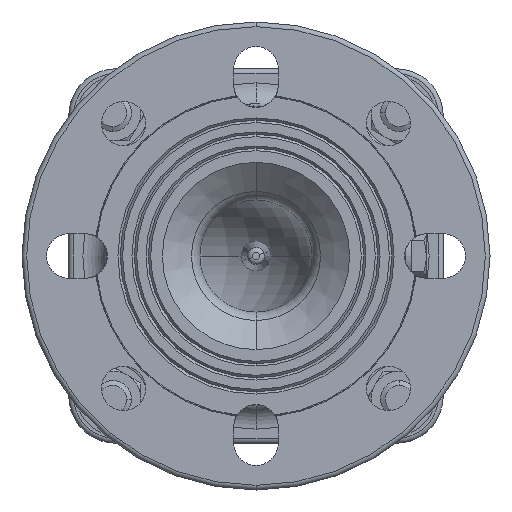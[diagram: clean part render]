
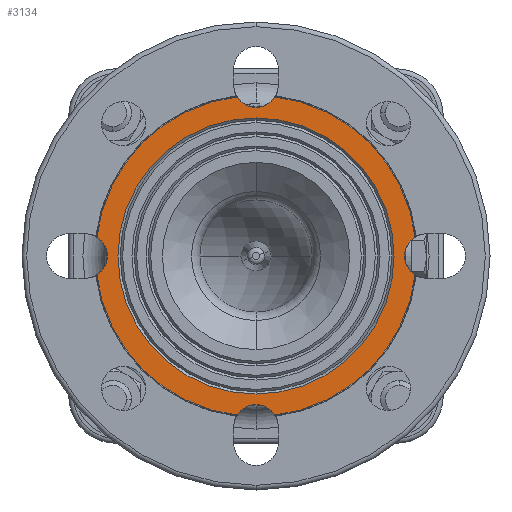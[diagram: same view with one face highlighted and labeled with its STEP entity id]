
A CAD part, front view. The second image highlights one B-rep face of the part: STEP entity #3134.
In plain terms, the highlighted planar face has unit normal (0, -1, 0).
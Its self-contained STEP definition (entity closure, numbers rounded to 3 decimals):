
#19 = AXIS2_PLACEMENT_3D ( 'NONE', #9965, #1234, #11415 ) ;
#114 = ORIENTED_EDGE ( 'NONE', *, *, #14048, .T. ) ;
#166 = DIRECTION ( 'NONE',  ( 0., 0., -1. ) ) ;
#308 = DIRECTION ( 'NONE',  ( 0., 1., 0. ) ) ;
#379 = DIRECTION ( 'NONE',  ( 0., 0., -1. ) ) ;
#497 = VERTEX_POINT ( 'NONE', #13436 ) ;
#502 = AXIS2_PLACEMENT_3D ( 'NONE', #7949, #18143, #9409 ) ;
#691 = CARTESIAN_POINT ( 'NONE',  ( 68.013, 2., -8.085 ) ) ;
#815 = ORIENTED_EDGE ( 'NONE', *, *, #11864, .T. ) ;
#1059 = ORIENTED_EDGE ( 'NONE', *, *, #7221, .F. ) ;
#1081 = DIRECTION ( 'NONE',  ( 0., 0., -1. ) ) ;
#1126 = CARTESIAN_POINT ( 'NONE',  ( 0., 2., 0. ) ) ;
#1234 = DIRECTION ( 'NONE',  ( 0., -1., 0. ) ) ;
#1429 = EDGE_CURVE ( 'NONE', #11476, #497, #1866, .T. ) ;
#1456 = VERTEX_POINT ( 'NONE', #691 ) ;
#1694 = CARTESIAN_POINT ( 'NONE',  ( 8.085, 2., 68.013 ) ) ;
#1749 = EDGE_CURVE ( 'NONE', #18101, #16972, #5547, .T. ) ;
#1768 = PLANE ( 'NONE',  #12232 ) ;
#1781 = CIRCLE ( 'NONE', #10911, 9.5 ) ;
#1866 = CIRCLE ( 'NONE', #502, 68.491 ) ;
#1982 = CIRCLE ( 'NONE', #5563, 59. ) ;
#2053 = CIRCLE ( 'NONE', #7051, 68.491 ) ;
#2177 = AXIS2_PLACEMENT_3D ( 'NONE', #17603, #8909, #166 ) ;
#2319 = FACE_BOUND ( 'NONE', #2457, .T. ) ;
#2448 = CARTESIAN_POINT ( 'NONE',  ( 0., 2., -63.5 ) ) ;
#2457 = EDGE_LOOP ( 'NONE', ( #1059, #17383 ) ) ;
#2557 = DIRECTION ( 'NONE',  ( 0., 0., -1. ) ) ;
#3134 = ADVANCED_FACE ( 'NONE', ( #9153, #2319 ), #1768, .T. ) ;
#3330 = CIRCLE ( 'NONE', #12339, 9.5 ) ;
#3739 = CARTESIAN_POINT ( 'NONE',  ( 68.013, 2., 8.085 ) ) ;
#3768 = ORIENTED_EDGE ( 'NONE', *, *, #6147, .T. ) ;
#4016 = CIRCLE ( 'NONE', #10271, 59. ) ;
#4022 = VERTEX_POINT ( 'NONE', #2448 ) ;
#4078 = EDGE_CURVE ( 'NONE', #1456, #18101, #7771, .T. ) ;
#4538 = VERTEX_POINT ( 'NONE', #16467 ) ;
#4886 = VERTEX_POINT ( 'NONE', #14547 ) ;
#5232 = AXIS2_PLACEMENT_3D ( 'NONE', #15603, #6917, #17094 ) ;
#5418 = CARTESIAN_POINT ( 'NONE',  ( -73., 2., 0. ) ) ;
#5547 = CIRCLE ( 'NONE', #19, 68.491 ) ;
#5563 = AXIS2_PLACEMENT_3D ( 'NONE', #5810, #15966, #7265 ) ;
#5762 = DIRECTION ( 'NONE',  ( 0., 1., 0. ) ) ;
#5810 = CARTESIAN_POINT ( 'NONE',  ( 0., 2., 0. ) ) ;
#6147 = EDGE_CURVE ( 'NONE', #4538, #11476, #1781, .T. ) ;
#6258 = CIRCLE ( 'NONE', #12153, 9.5 ) ;
#6876 = DIRECTION ( 'NONE',  ( 0., 0., -1. ) ) ;
#6917 = DIRECTION ( 'NONE',  ( 0., 1., 0. ) ) ;
#7051 = AXIS2_PLACEMENT_3D ( 'NONE', #18552, #9798, #1081 ) ;
#7088 = CIRCLE ( 'NONE', #7516, 68.491 ) ;
#7221 = EDGE_CURVE ( 'NONE', #4886, #16591, #1982, .T. ) ;
#7265 = DIRECTION ( 'NONE',  ( 0., 0., -1. ) ) ;
#7497 = CARTESIAN_POINT ( 'NONE',  ( 0., 2., 0. ) ) ;
#7516 = AXIS2_PLACEMENT_3D ( 'NONE', #1126, #11286, #2557 ) ;
#7771 = CIRCLE ( 'NONE', #5232, 9.5 ) ;
#7949 = CARTESIAN_POINT ( 'NONE',  ( 0., 2., 0. ) ) ;
#8308 = ORIENTED_EDGE ( 'NONE', *, *, #1429, .T. ) ;
#8909 = DIRECTION ( 'NONE',  ( 0., 1., 0. ) ) ;
#8970 = DIRECTION ( 'NONE',  ( 0., 0., -1. ) ) ;
#9006 = ORIENTED_EDGE ( 'NONE', *, *, #18267, .T. ) ;
#9044 = CARTESIAN_POINT ( 'NONE',  ( -70., 2., 0. ) ) ;
#9046 = CARTESIAN_POINT ( 'NONE',  ( 0., 2., -73. ) ) ;
#9107 = DIRECTION ( 'NONE',  ( 0., -1., 0. ) ) ;
#9153 = FACE_OUTER_BOUND ( 'NONE', #12608, .T. ) ;
#9409 = DIRECTION ( 'NONE',  ( 0., 0., -1. ) ) ;
#9798 = DIRECTION ( 'NONE',  ( 0., -1., 0. ) ) ;
#9965 = CARTESIAN_POINT ( 'NONE',  ( 0., 2., 0. ) ) ;
#10132 = ORIENTED_EDGE ( 'NONE', *, *, #13412, .T. ) ;
#10171 = ORIENTED_EDGE ( 'NONE', *, *, #1749, .T. ) ;
#10271 = AXIS2_PLACEMENT_3D ( 'NONE', #7497, #17694, #8970 ) ;
#10500 = DIRECTION ( 'NONE',  ( 0., 0., -1. ) ) ;
#10568 = EDGE_CURVE ( 'NONE', #16591, #4886, #4016, .T. ) ;
#10870 = ORIENTED_EDGE ( 'NONE', *, *, #17890, .T. ) ;
#10911 = AXIS2_PLACEMENT_3D ( 'NONE', #5418, #15552, #6876 ) ;
#11286 = DIRECTION ( 'NONE',  ( 0., -1., 0. ) ) ;
#11415 = DIRECTION ( 'NONE',  ( 0., 0., -1. ) ) ;
#11454 = CARTESIAN_POINT ( 'NONE',  ( 0., 2., 59. ) ) ;
#11476 = VERTEX_POINT ( 'NONE', #14309 ) ;
#11864 = EDGE_CURVE ( 'NONE', #16972, #16227, #6258, .T. ) ;
#12153 = AXIS2_PLACEMENT_3D ( 'NONE', #14467, #5762, #15924 ) ;
#12232 = AXIS2_PLACEMENT_3D ( 'NONE', #9044, #9107, #379 ) ;
#12339 = AXIS2_PLACEMENT_3D ( 'NONE', #9046, #308, #10500 ) ;
#12608 = EDGE_LOOP ( 'NONE', ( #9006, #10870, #114, #14183, #10171, #815, #10132, #3768, #8308 ) ) ;
#13088 = CIRCLE ( 'NONE', #2177, 9.5 ) ;
#13412 = EDGE_CURVE ( 'NONE', #16227, #4538, #2053, .T. ) ;
#13436 = CARTESIAN_POINT ( 'NONE',  ( -8.085, 2., -68.013 ) ) ;
#14048 = EDGE_CURVE ( 'NONE', #17895, #1456, #7088, .T. ) ;
#14183 = ORIENTED_EDGE ( 'NONE', *, *, #4078, .T. ) ;
#14309 = CARTESIAN_POINT ( 'NONE',  ( -68.013, 2., -8.085 ) ) ;
#14467 = CARTESIAN_POINT ( 'NONE',  ( 0., 2., 73. ) ) ;
#14547 = CARTESIAN_POINT ( 'NONE',  ( 0., 2., -59. ) ) ;
#15552 = DIRECTION ( 'NONE',  ( 0., 1., 0. ) ) ;
#15603 = CARTESIAN_POINT ( 'NONE',  ( 73., 2., 0. ) ) ;
#15924 = DIRECTION ( 'NONE',  ( 0., 0., -1. ) ) ;
#15966 = DIRECTION ( 'NONE',  ( 0., -1., 0. ) ) ;
#16226 = CARTESIAN_POINT ( 'NONE',  ( -8.085, 2., 68.013 ) ) ;
#16227 = VERTEX_POINT ( 'NONE', #16226 ) ;
#16467 = CARTESIAN_POINT ( 'NONE',  ( -68.013, 2., 8.085 ) ) ;
#16591 = VERTEX_POINT ( 'NONE', #11454 ) ;
#16972 = VERTEX_POINT ( 'NONE', #1694 ) ;
#17094 = DIRECTION ( 'NONE',  ( 0., 0., -1. ) ) ;
#17383 = ORIENTED_EDGE ( 'NONE', *, *, #10568, .F. ) ;
#17603 = CARTESIAN_POINT ( 'NONE',  ( 0., 2., -73. ) ) ;
#17694 = DIRECTION ( 'NONE',  ( 0., -1., 0. ) ) ;
#17704 = CARTESIAN_POINT ( 'NONE',  ( 8.085, 2., -68.013 ) ) ;
#17890 = EDGE_CURVE ( 'NONE', #4022, #17895, #3330, .T. ) ;
#17895 = VERTEX_POINT ( 'NONE', #17704 ) ;
#18101 = VERTEX_POINT ( 'NONE', #3739 ) ;
#18143 = DIRECTION ( 'NONE',  ( 0., -1., 0. ) ) ;
#18267 = EDGE_CURVE ( 'NONE', #497, #4022, #13088, .T. ) ;
#18552 = CARTESIAN_POINT ( 'NONE',  ( 0., 2., 0. ) ) ;
